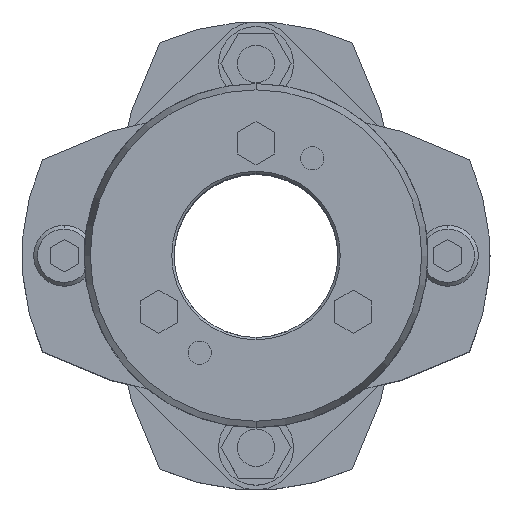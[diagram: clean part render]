
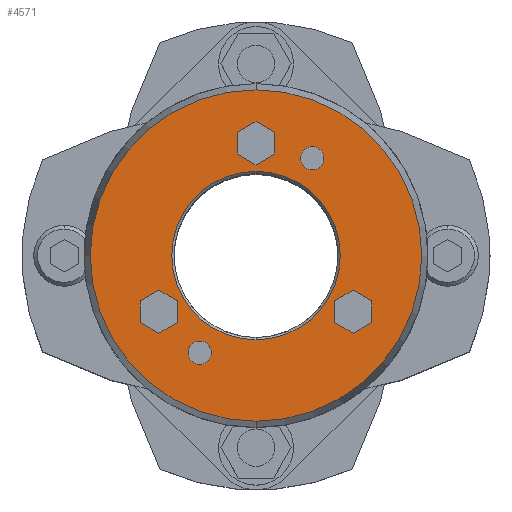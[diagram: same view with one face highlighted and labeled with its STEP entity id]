
A CAD part, top view. The second image highlights one B-rep face of the part: STEP entity #4571.
In plain terms, the highlighted planar face has unit normal (0, 0, 1).
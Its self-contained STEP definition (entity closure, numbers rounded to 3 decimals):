
#2325=CARTESIAN_POINT('',(0.,18.,55.5));
#2326=VERTEX_POINT('',#2325);
#2342=CARTESIAN_POINT('',(0.,-18.,55.5));
#2343=VERTEX_POINT('',#2342);
#2350=CARTESIAN_POINT('',(0.,0.,55.5));
#2351=DIRECTION('',(0.0,0.0,1.0));
#2352=DIRECTION('',(0.0,1.0,0.0));
#2353=AXIS2_PLACEMENT_3D('',#2350,#2351,#2352);
#2354=CIRCLE('',#2353,18.0);
#2355=EDGE_CURVE('',#2343,#2326,#2354,.T.);
#2471=CARTESIAN_POINT('',(0.,-35.41,55.5));
#2472=VERTEX_POINT('',#2471);
#2481=CARTESIAN_POINT('',(0.,35.41,55.5));
#2482=VERTEX_POINT('',#2481);
#2483=CARTESIAN_POINT('',(0.,0.,55.5));
#2484=DIRECTION('',(0.0,0.0,-1.0));
#2485=DIRECTION('',(0.0,-1.0,0.0));
#2486=AXIS2_PLACEMENT_3D('',#2483,#2484,#2485);
#2487=CIRCLE('',#2486,35.41);
#2488=EDGE_CURVE('',#2472,#2482,#2487,.T.);
#2657=CARTESIAN_POINT('',(-12.,-18.285,55.5));
#2658=VERTEX_POINT('',#2657);
#2674=CARTESIAN_POINT('',(-12.,-23.285,55.5));
#2675=VERTEX_POINT('',#2674);
#2682=CARTESIAN_POINT('',(-12.,-20.785,55.5));
#2683=DIRECTION('',(0.0,0.0,-1.0));
#2684=DIRECTION('',(0.0,1.0,0.0));
#2685=AXIS2_PLACEMENT_3D('',#2682,#2683,#2684);
#2686=CIRCLE('',#2685,2.5);
#2687=EDGE_CURVE('',#2658,#2675,#2686,.T.);
#2699=CARTESIAN_POINT('',(12.,23.285,55.5));
#2700=VERTEX_POINT('',#2699);
#2716=CARTESIAN_POINT('',(12.,18.285,55.5));
#2717=VERTEX_POINT('',#2716);
#2724=CARTESIAN_POINT('',(12.,20.785,55.5));
#2725=DIRECTION('',(0.0,0.0,-1.0));
#2726=DIRECTION('',(0.0,1.0,0.0));
#2727=AXIS2_PLACEMENT_3D('',#2724,#2725,#2726);
#2728=CIRCLE('',#2727,2.5);
#2729=EDGE_CURVE('',#2700,#2717,#2728,.T.);
#3480=CARTESIAN_POINT('',(12.,20.785,55.5));
#3481=DIRECTION('',(0.0,0.0,-1.0));
#3482=DIRECTION('',(0.0,1.0,0.0));
#3483=AXIS2_PLACEMENT_3D('',#3480,#3481,#3482);
#3484=CIRCLE('',#3483,2.5);
#3485=EDGE_CURVE('',#2717,#2700,#3484,.T.);
#3514=CARTESIAN_POINT('',(-12.,-20.785,55.5));
#3515=DIRECTION('',(0.0,0.0,-1.0));
#3516=DIRECTION('',(0.0,1.0,0.0));
#3517=AXIS2_PLACEMENT_3D('',#3514,#3515,#3516);
#3518=CIRCLE('',#3517,2.5);
#3519=EDGE_CURVE('',#2675,#2658,#3518,.T.);
#3557=CARTESIAN_POINT('',(20.785,-7.381,55.5));
#3558=VERTEX_POINT('',#3557);
#3565=CARTESIAN_POINT('',(16.785,-9.691,55.5));
#3566=VERTEX_POINT('',#3565);
#3567=CARTESIAN_POINT('',(16.785,-9.691,55.5));
#3568=DIRECTION('',(0.866,0.5,0.0));
#3569=VECTOR('',#3568,4.619);
#3570=LINE('',#3567,#3569);
#3571=EDGE_CURVE('',#3566,#3558,#3570,.T.);
#3595=CARTESIAN_POINT('',(24.785,-9.691,55.5));
#3596=VERTEX_POINT('',#3595);
#3603=CARTESIAN_POINT('',(20.785,-7.381,55.5));
#3604=DIRECTION('',(0.866,-0.5,0.0));
#3605=VECTOR('',#3604,4.619);
#3606=LINE('',#3603,#3605);
#3607=EDGE_CURVE('',#3558,#3596,#3606,.T.);
#3626=CARTESIAN_POINT('',(24.785,-14.309,55.5));
#3627=VERTEX_POINT('',#3626);
#3634=CARTESIAN_POINT('',(24.785,-9.691,55.5));
#3635=DIRECTION('',(0.0,-1.0,0.0));
#3636=VECTOR('',#3635,4.619);
#3637=LINE('',#3634,#3636);
#3638=EDGE_CURVE('',#3596,#3627,#3637,.T.);
#3657=CARTESIAN_POINT('',(20.785,-16.619,55.5));
#3658=VERTEX_POINT('',#3657);
#3665=CARTESIAN_POINT('',(24.785,-14.309,55.5));
#3666=DIRECTION('',(-0.866,-0.5,0.0));
#3667=VECTOR('',#3666,4.619);
#3668=LINE('',#3665,#3667);
#3669=EDGE_CURVE('',#3627,#3658,#3668,.T.);
#3688=CARTESIAN_POINT('',(16.785,-14.309,55.5));
#3689=VERTEX_POINT('',#3688);
#3696=CARTESIAN_POINT('',(20.785,-16.619,55.5));
#3697=DIRECTION('',(-0.866,0.5,0.0));
#3698=VECTOR('',#3697,4.619);
#3699=LINE('',#3696,#3698);
#3700=EDGE_CURVE('',#3658,#3689,#3699,.T.);
#3718=CARTESIAN_POINT('',(16.785,-14.309,55.5));
#3719=DIRECTION('',(0.0,1.0,0.0));
#3720=VECTOR('',#3719,4.619);
#3721=LINE('',#3718,#3720);
#3722=EDGE_CURVE('',#3689,#3566,#3721,.T.);
#3757=CARTESIAN_POINT('',(0.,28.619,55.5));
#3758=VERTEX_POINT('',#3757);
#3765=CARTESIAN_POINT('',(-4.,26.309,55.5));
#3766=VERTEX_POINT('',#3765);
#3767=CARTESIAN_POINT('',(-4.,26.309,55.5));
#3768=DIRECTION('',(0.866,0.5,0.0));
#3769=VECTOR('',#3768,4.619);
#3770=LINE('',#3767,#3769);
#3771=EDGE_CURVE('',#3766,#3758,#3770,.T.);
#3795=CARTESIAN_POINT('',(4.,26.309,55.5));
#3796=VERTEX_POINT('',#3795);
#3803=CARTESIAN_POINT('',(0.,28.619,55.5));
#3804=DIRECTION('',(0.866,-0.5,0.0));
#3805=VECTOR('',#3804,4.619);
#3806=LINE('',#3803,#3805);
#3807=EDGE_CURVE('',#3758,#3796,#3806,.T.);
#3826=CARTESIAN_POINT('',(4.,21.691,55.5));
#3827=VERTEX_POINT('',#3826);
#3834=CARTESIAN_POINT('',(4.,26.309,55.5));
#3835=DIRECTION('',(0.0,-1.0,0.0));
#3836=VECTOR('',#3835,4.619);
#3837=LINE('',#3834,#3836);
#3838=EDGE_CURVE('',#3796,#3827,#3837,.T.);
#3857=CARTESIAN_POINT('',(0.,19.381,55.5));
#3858=VERTEX_POINT('',#3857);
#3865=CARTESIAN_POINT('',(4.,21.691,55.5));
#3866=DIRECTION('',(-0.866,-0.5,0.0));
#3867=VECTOR('',#3866,4.619);
#3868=LINE('',#3865,#3867);
#3869=EDGE_CURVE('',#3827,#3858,#3868,.T.);
#3888=CARTESIAN_POINT('',(-4.,21.691,55.5));
#3889=VERTEX_POINT('',#3888);
#3896=CARTESIAN_POINT('',(0.,19.381,55.5));
#3897=DIRECTION('',(-0.866,0.5,0.0));
#3898=VECTOR('',#3897,4.619);
#3899=LINE('',#3896,#3898);
#3900=EDGE_CURVE('',#3858,#3889,#3899,.T.);
#3918=CARTESIAN_POINT('',(-4.,21.691,55.5));
#3919=DIRECTION('',(0.0,1.0,0.0));
#3920=VECTOR('',#3919,4.619);
#3921=LINE('',#3918,#3920);
#3922=EDGE_CURVE('',#3889,#3766,#3921,.T.);
#3957=CARTESIAN_POINT('',(-20.785,-7.381,55.5));
#3958=VERTEX_POINT('',#3957);
#3965=CARTESIAN_POINT('',(-24.785,-9.691,55.5));
#3966=VERTEX_POINT('',#3965);
#3967=CARTESIAN_POINT('',(-24.785,-9.691,55.5));
#3968=DIRECTION('',(0.866,0.5,0.0));
#3969=VECTOR('',#3968,4.619);
#3970=LINE('',#3967,#3969);
#3971=EDGE_CURVE('',#3966,#3958,#3970,.T.);
#3995=CARTESIAN_POINT('',(-16.785,-9.691,55.5));
#3996=VERTEX_POINT('',#3995);
#4003=CARTESIAN_POINT('',(-20.785,-7.381,55.5));
#4004=DIRECTION('',(0.866,-0.5,0.0));
#4005=VECTOR('',#4004,4.619);
#4006=LINE('',#4003,#4005);
#4007=EDGE_CURVE('',#3958,#3996,#4006,.T.);
#4026=CARTESIAN_POINT('',(-16.785,-14.309,55.5));
#4027=VERTEX_POINT('',#4026);
#4034=CARTESIAN_POINT('',(-16.785,-9.691,55.5));
#4035=DIRECTION('',(0.0,-1.0,0.0));
#4036=VECTOR('',#4035,4.619);
#4037=LINE('',#4034,#4036);
#4038=EDGE_CURVE('',#3996,#4027,#4037,.T.);
#4057=CARTESIAN_POINT('',(-20.785,-16.619,55.5));
#4058=VERTEX_POINT('',#4057);
#4065=CARTESIAN_POINT('',(-16.785,-14.309,55.5));
#4066=DIRECTION('',(-0.866,-0.5,0.0));
#4067=VECTOR('',#4066,4.619);
#4068=LINE('',#4065,#4067);
#4069=EDGE_CURVE('',#4027,#4058,#4068,.T.);
#4088=CARTESIAN_POINT('',(-24.785,-14.309,55.5));
#4089=VERTEX_POINT('',#4088);
#4096=CARTESIAN_POINT('',(-20.785,-16.619,55.5));
#4097=DIRECTION('',(-0.866,0.5,0.0));
#4098=VECTOR('',#4097,4.619);
#4099=LINE('',#4096,#4098);
#4100=EDGE_CURVE('',#4058,#4089,#4099,.T.);
#4118=CARTESIAN_POINT('',(-24.785,-14.309,55.5));
#4119=DIRECTION('',(0.0,1.0,0.0));
#4120=VECTOR('',#4119,4.619);
#4121=LINE('',#4118,#4120);
#4122=EDGE_CURVE('',#4089,#3966,#4121,.T.);
#4510=CARTESIAN_POINT('',(0.,0.,55.5));
#4511=DIRECTION('',(0.0,0.0,-1.0));
#4512=DIRECTION('',(0.0,-1.0,0.0));
#4513=AXIS2_PLACEMENT_3D('',#4510,#4511,#4512);
#4514=CIRCLE('',#4513,35.41);
#4515=EDGE_CURVE('',#2482,#2472,#4514,.T.);
#4520=CARTESIAN_POINT('',(0.,3.114,55.5));
#4521=DIRECTION('',(0.0,0.0,1.0));
#4522=DIRECTION('',(0.0,1.0,0.0));
#4523=AXIS2_PLACEMENT_3D('',#4520,#4521,#4522);
#4524=PLANE('',#4523);
#4525=ORIENTED_EDGE('',*,*,#4515,.F.);
#4526=ORIENTED_EDGE('',*,*,#2488,.F.);
#4527=EDGE_LOOP('',(#4525,#4526));
#4528=FACE_OUTER_BOUND('',#4527,.T.);
#4529=ORIENTED_EDGE('',*,*,#2729,.T.);
#4530=ORIENTED_EDGE('',*,*,#3485,.T.);
#4531=EDGE_LOOP('',(#4529,#4530));
#4532=FACE_BOUND('',#4531,.T.);
#4533=ORIENTED_EDGE('',*,*,#2687,.T.);
#4534=ORIENTED_EDGE('',*,*,#3519,.T.);
#4535=EDGE_LOOP('',(#4533,#4534));
#4536=FACE_BOUND('',#4535,.T.);
#4537=ORIENTED_EDGE('',*,*,#3571,.T.);
#4538=ORIENTED_EDGE('',*,*,#3607,.T.);
#4539=ORIENTED_EDGE('',*,*,#3638,.T.);
#4540=ORIENTED_EDGE('',*,*,#3669,.T.);
#4541=ORIENTED_EDGE('',*,*,#3700,.T.);
#4542=ORIENTED_EDGE('',*,*,#3722,.T.);
#4543=EDGE_LOOP('',(#4537,#4538,#4539,#4540,#4541,#4542));
#4544=FACE_BOUND('',#4543,.T.);
#4545=ORIENTED_EDGE('',*,*,#3771,.T.);
#4546=ORIENTED_EDGE('',*,*,#3807,.T.);
#4547=ORIENTED_EDGE('',*,*,#3838,.T.);
#4548=ORIENTED_EDGE('',*,*,#3869,.T.);
#4549=ORIENTED_EDGE('',*,*,#3900,.T.);
#4550=ORIENTED_EDGE('',*,*,#3922,.T.);
#4551=EDGE_LOOP('',(#4545,#4546,#4547,#4548,#4549,#4550));
#4552=FACE_BOUND('',#4551,.T.);
#4553=ORIENTED_EDGE('',*,*,#3971,.T.);
#4554=ORIENTED_EDGE('',*,*,#4007,.T.);
#4555=ORIENTED_EDGE('',*,*,#4038,.T.);
#4556=ORIENTED_EDGE('',*,*,#4069,.T.);
#4557=ORIENTED_EDGE('',*,*,#4100,.T.);
#4558=ORIENTED_EDGE('',*,*,#4122,.T.);
#4559=EDGE_LOOP('',(#4553,#4554,#4555,#4556,#4557,#4558));
#4560=FACE_BOUND('',#4559,.T.);
#4561=ORIENTED_EDGE('',*,*,#2355,.F.);
#4562=CARTESIAN_POINT('',(0.,0.,55.5));
#4563=DIRECTION('',(0.0,0.0,1.0));
#4564=DIRECTION('',(0.0,1.0,0.0));
#4565=AXIS2_PLACEMENT_3D('',#4562,#4563,#4564);
#4566=CIRCLE('',#4565,18.0);
#4567=EDGE_CURVE('',#2326,#2343,#4566,.T.);
#4568=ORIENTED_EDGE('',*,*,#4567,.F.);
#4569=EDGE_LOOP('',(#4561,#4568));
#4570=FACE_BOUND('',#4569,.T.);
#4571=ADVANCED_FACE('',(#4528,#4532,#4536,#4544,#4552,#4560,#4570),#4524,.T.);
